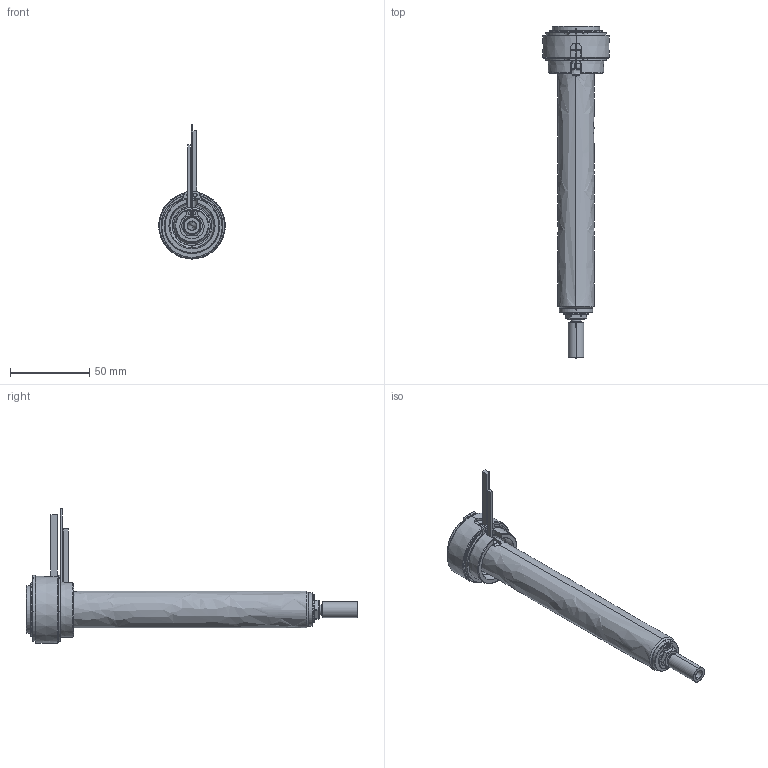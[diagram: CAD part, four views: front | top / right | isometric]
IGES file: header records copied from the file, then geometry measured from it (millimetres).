
Start section: SolidWorks IGES file using analytic representation for surfaces
Global section: file name: C:\Users\luca.EMPAD\Desktop\TEM\UGBE3504-M-A-P-5 [Ød-1.0 P-20 ØC-6.0].IGS; native system: SolidWorks 2012; preprocessor: SolidWorks 2012; author: luca; date: 120330.135545; units: millimetre
Bounding box: 42 x 209 x 84.4 mm (x, y, z)
Surface area: 35443.9 mm2 (no closed solid volume)
Topology: 0 solids, 0 shells, 180 faces, 3226 edges, 3226 vertices
Faces by surface type: revolution 114, bspline 66
